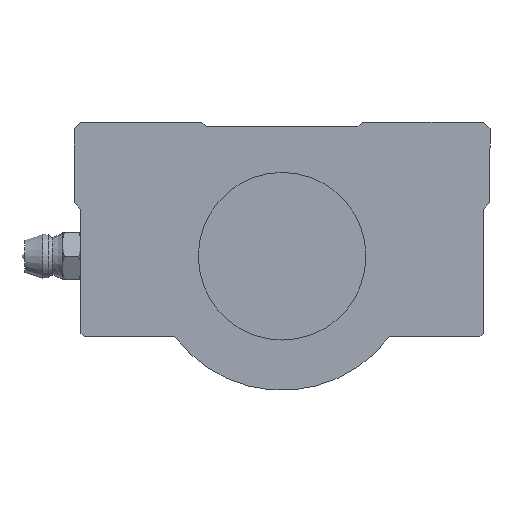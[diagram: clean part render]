
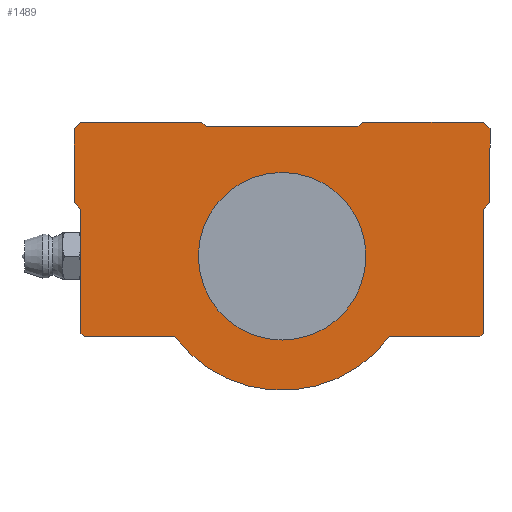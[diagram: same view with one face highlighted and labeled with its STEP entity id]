
A CAD part, left-side view. The second image highlights one B-rep face of the part: STEP entity #1489.
In plain terms, the highlighted planar face has unit normal (-1, 0, 0).
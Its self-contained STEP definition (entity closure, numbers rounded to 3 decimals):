
#1094=CARTESIAN_POINT('',(125.0,29.5,-12.));
#1095=VERTEX_POINT('',#1094);
#1102=CARTESIAN_POINT('',(125.0,30.,-11.5));
#1103=VERTEX_POINT('',#1102);
#1104=CARTESIAN_POINT('',(125.0,29.5,-12.));
#1105=DIRECTION('',(0.0,0.707,0.707));
#1106=VECTOR('',#1105,0.707);
#1107=LINE('',#1104,#1106);
#1108=EDGE_CURVE('',#1095,#1103,#1107,.T.);
#1133=CARTESIAN_POINT('',(125.0,16.,-12.));
#1134=VERTEX_POINT('',#1133);
#1141=CARTESIAN_POINT('',(125.0,16.,-12.));
#1142=DIRECTION('',(0.0,1.0,0.0));
#1143=VECTOR('',#1142,13.5);
#1144=LINE('',#1141,#1143);
#1145=EDGE_CURVE('',#1134,#1095,#1144,.T.);
#1326=CARTESIAN_POINT('',(125.0,-30.,-11.5));
#1327=VERTEX_POINT('',#1326);
#1334=CARTESIAN_POINT('',(125.0,-29.5,-12.));
#1335=VERTEX_POINT('',#1334);
#1336=CARTESIAN_POINT('',(125.0,-30.,-11.5));
#1337=DIRECTION('',(0.0,0.707,-0.707));
#1338=VECTOR('',#1337,0.707);
#1339=LINE('',#1336,#1338);
#1340=EDGE_CURVE('',#1327,#1335,#1339,.T.);
#1351=CARTESIAN_POINT('',(125.0,-21.5,19.65));
#1352=DIRECTION('',(1.0,0.0,0.0));
#1353=DIRECTION('',(0.0,0.0,-1.0));
#1354=AXIS2_PLACEMENT_3D('',#1351,#1352,#1353);
#1355=PLANE('',#1354);
#1356=ORIENTED_EDGE('',*,*,#1108,.F.);
#1357=ORIENTED_EDGE('',*,*,#1145,.F.);
#1358=CARTESIAN_POINT('',(125.0,-16.,-12.));
#1359=VERTEX_POINT('',#1358);
#1360=CARTESIAN_POINT('',(125.0,0.0,0.0));
#1361=DIRECTION('',(1.0,0.0,0.0));
#1362=DIRECTION('',(0.0,-0.8,-0.6));
#1363=AXIS2_PLACEMENT_3D('',#1360,#1361,#1362);
#1364=CIRCLE('',#1363,20.);
#1365=EDGE_CURVE('',#1359,#1134,#1364,.T.);
#1366=ORIENTED_EDGE('',*,*,#1365,.F.);
#1367=CARTESIAN_POINT('',(125.0,-29.5,-12.));
#1368=DIRECTION('',(0.0,1.0,0.0));
#1369=VECTOR('',#1368,13.5);
#1370=LINE('',#1367,#1369);
#1371=EDGE_CURVE('',#1335,#1359,#1370,.T.);
#1372=ORIENTED_EDGE('',*,*,#1371,.F.);
#1373=ORIENTED_EDGE('',*,*,#1340,.F.);
#1374=CARTESIAN_POINT('',(125.0,-30.0,7.));
#1375=VERTEX_POINT('',#1374);
#1376=CARTESIAN_POINT('',(125.0,-30.0,7.));
#1377=DIRECTION('',(0.0,0.0,-1.0));
#1378=VECTOR('',#1377,18.5);
#1379=LINE('',#1376,#1378);
#1380=EDGE_CURVE('',#1375,#1327,#1379,.T.);
#1381=ORIENTED_EDGE('',*,*,#1380,.F.);
#1382=CARTESIAN_POINT('',(125.0,-31.,8.));
#1383=VERTEX_POINT('',#1382);
#1384=CARTESIAN_POINT('',(125.0,-31.,8.));
#1385=DIRECTION('',(0.0,0.707,-0.707));
#1386=VECTOR('',#1385,1.414);
#1387=LINE('',#1384,#1386);
#1388=EDGE_CURVE('',#1383,#1375,#1387,.T.);
#1389=ORIENTED_EDGE('',*,*,#1388,.F.);
#1390=CARTESIAN_POINT('',(125.0,-31.,19.));
#1391=VERTEX_POINT('',#1390);
#1392=CARTESIAN_POINT('',(125.0,-31.,19.));
#1393=DIRECTION('',(0.0,0.0,-1.0));
#1394=VECTOR('',#1393,11.0);
#1395=LINE('',#1392,#1394);
#1396=EDGE_CURVE('',#1391,#1383,#1395,.T.);
#1397=ORIENTED_EDGE('',*,*,#1396,.F.);
#1398=CARTESIAN_POINT('',(125.0,-30.,20.));
#1399=VERTEX_POINT('',#1398);
#1400=CARTESIAN_POINT('',(125.0,-30.,20.));
#1401=DIRECTION('',(0.0,-0.707,-0.707));
#1402=VECTOR('',#1401,1.414);
#1403=LINE('',#1400,#1402);
#1404=EDGE_CURVE('',#1399,#1391,#1403,.T.);
#1405=ORIENTED_EDGE('',*,*,#1404,.F.);
#1406=CARTESIAN_POINT('',(125.0,-12.,20.));
#1407=VERTEX_POINT('',#1406);
#1408=CARTESIAN_POINT('',(125.0,-12.,20.));
#1409=DIRECTION('',(0.0,-1.0,0.0));
#1410=VECTOR('',#1409,18.);
#1411=LINE('',#1408,#1410);
#1412=EDGE_CURVE('',#1407,#1399,#1411,.T.);
#1413=ORIENTED_EDGE('',*,*,#1412,.F.);
#1414=CARTESIAN_POINT('',(125.0,-11.3,19.3));
#1415=VERTEX_POINT('',#1414);
#1416=CARTESIAN_POINT('',(125.0,-11.3,19.3));
#1417=DIRECTION('',(0.0,-0.707,0.707));
#1418=VECTOR('',#1417,0.99);
#1419=LINE('',#1416,#1418);
#1420=EDGE_CURVE('',#1415,#1407,#1419,.T.);
#1421=ORIENTED_EDGE('',*,*,#1420,.F.);
#1422=CARTESIAN_POINT('',(125.0,11.3,19.3));
#1423=VERTEX_POINT('',#1422);
#1424=CARTESIAN_POINT('',(125.0,11.3,19.3));
#1425=DIRECTION('',(0.0,-1.0,0.0));
#1426=VECTOR('',#1425,22.6);
#1427=LINE('',#1424,#1426);
#1428=EDGE_CURVE('',#1423,#1415,#1427,.T.);
#1429=ORIENTED_EDGE('',*,*,#1428,.F.);
#1430=CARTESIAN_POINT('',(125.0,12.,20.));
#1431=VERTEX_POINT('',#1430);
#1432=CARTESIAN_POINT('',(125.0,12.,20.));
#1433=DIRECTION('',(0.0,-0.707,-0.707));
#1434=VECTOR('',#1433,0.99);
#1435=LINE('',#1432,#1434);
#1436=EDGE_CURVE('',#1431,#1423,#1435,.T.);
#1437=ORIENTED_EDGE('',*,*,#1436,.F.);
#1438=CARTESIAN_POINT('',(125.0,30.,20.));
#1439=VERTEX_POINT('',#1438);
#1440=CARTESIAN_POINT('',(125.0,30.,20.));
#1441=DIRECTION('',(0.0,-1.0,0.0));
#1442=VECTOR('',#1441,18.);
#1443=LINE('',#1440,#1442);
#1444=EDGE_CURVE('',#1439,#1431,#1443,.T.);
#1445=ORIENTED_EDGE('',*,*,#1444,.F.);
#1446=CARTESIAN_POINT('',(125.0,31.,19.));
#1447=VERTEX_POINT('',#1446);
#1448=CARTESIAN_POINT('',(125.0,31.,19.));
#1449=DIRECTION('',(0.0,-0.707,0.707));
#1450=VECTOR('',#1449,1.414);
#1451=LINE('',#1448,#1450);
#1452=EDGE_CURVE('',#1447,#1439,#1451,.T.);
#1453=ORIENTED_EDGE('',*,*,#1452,.F.);
#1454=CARTESIAN_POINT('',(125.0,31.,8.));
#1455=VERTEX_POINT('',#1454);
#1456=CARTESIAN_POINT('',(125.0,31.,8.));
#1457=DIRECTION('',(0.0,0.0,1.0));
#1458=VECTOR('',#1457,11.0);
#1459=LINE('',#1456,#1458);
#1460=EDGE_CURVE('',#1455,#1447,#1459,.T.);
#1461=ORIENTED_EDGE('',*,*,#1460,.F.);
#1462=CARTESIAN_POINT('',(125.0,30.0,7.));
#1463=VERTEX_POINT('',#1462);
#1464=CARTESIAN_POINT('',(125.0,30.0,7.));
#1465=DIRECTION('',(0.0,0.707,0.707));
#1466=VECTOR('',#1465,1.414);
#1467=LINE('',#1464,#1466);
#1468=EDGE_CURVE('',#1463,#1455,#1467,.T.);
#1469=ORIENTED_EDGE('',*,*,#1468,.F.);
#1470=CARTESIAN_POINT('',(125.0,30.,-11.5));
#1471=DIRECTION('',(0.0,0.0,1.0));
#1472=VECTOR('',#1471,18.5);
#1473=LINE('',#1470,#1472);
#1474=EDGE_CURVE('',#1103,#1463,#1473,.T.);
#1475=ORIENTED_EDGE('',*,*,#1474,.F.);
#1476=EDGE_LOOP('',(#1356,#1357,#1366,#1372,#1373,#1381,#1389,#1397,#1405,#1413,#1421,#1429,#1437,#1445,#1453,#1461,#1469,#1475));
#1477=FACE_OUTER_BOUND('',#1476,.T.);
#1478=CARTESIAN_POINT('',(125.0,12.5,0.));
#1479=VERTEX_POINT('',#1478);
#1480=CARTESIAN_POINT('',(125.0,0.0,0.0));
#1481=DIRECTION('',(1.0,0.0,0.0));
#1482=DIRECTION('',(0.0,-1.0,0.0));
#1483=AXIS2_PLACEMENT_3D('',#1480,#1481,#1482);
#1484=CIRCLE('',#1483,12.5);
#1485=EDGE_CURVE('',#1479,#1479,#1484,.T.);
#1486=ORIENTED_EDGE('',*,*,#1485,.T.);
#1487=EDGE_LOOP('',(#1486));
#1488=FACE_BOUND('',#1487,.T.);
#1489=ADVANCED_FACE('',(#1477,#1488),#1355,.F.);
